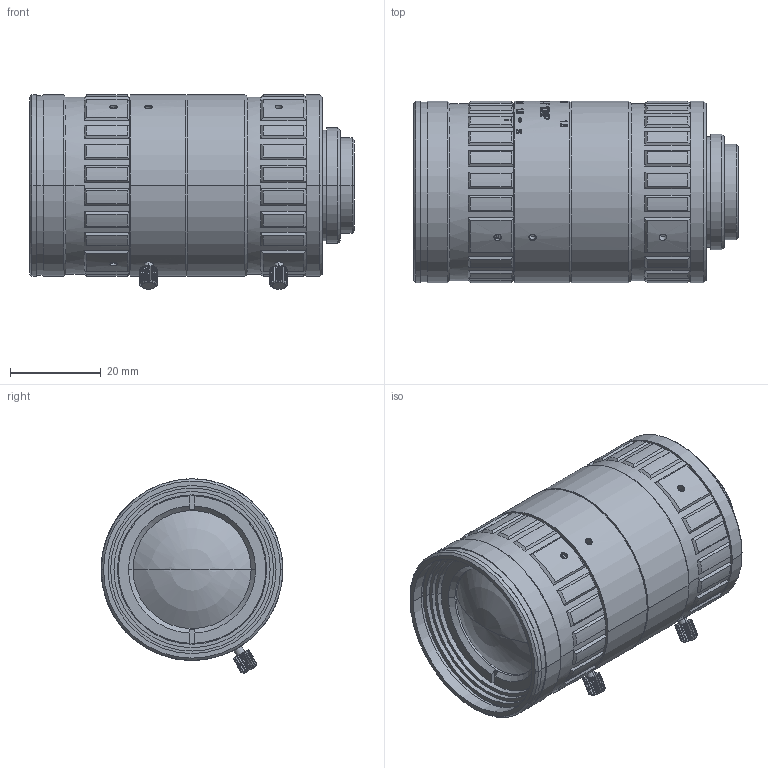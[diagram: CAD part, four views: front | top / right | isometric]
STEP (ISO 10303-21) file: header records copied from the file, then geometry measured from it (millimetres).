
FILE_DESCRIPTION((''),'2;1');
FILE_NAME('OPT-C1616-10M-V1_0','2019-09-12T10:50:46',('dcsongs'),(''),'CREO PARAMETRIC BY PTC INC, 2018400','CREO PARAMETRIC BY PTC INC, 2018400','');
FILE_SCHEMA(('AUTOMOTIVE_DESIGN { 1 0 10303 214 1 1 1 1 }'));
Length unit declared in the file: millimetre
Products named in the file (1): OPT-C1616-10M-V1_0
Bounding box: 71.54 x 40.03 x 42.83 mm (x, y, z)
Volume: 76240 mm3; surface area: 15928.8 mm2
Topology: 1 solids, 10 shells, 1387 faces, 3820 edges, 2522 vertices
Faces by surface type: bspline 514, plane 409, cylinder 330, cone 120, sphere 10, extrusion 4
Entity records: 59104 total; most frequent: CARTESIAN_POINT 27633, ORIENTED_EDGE 7622, DIRECTION 4737, EDGE_CURVE 3811, VERTEX_POINT 2521, AXIS2_PLACEMENT_3D 1619, B_SPLINE_CURVE_WITH_KNOTS 1571, VECTOR 1499
